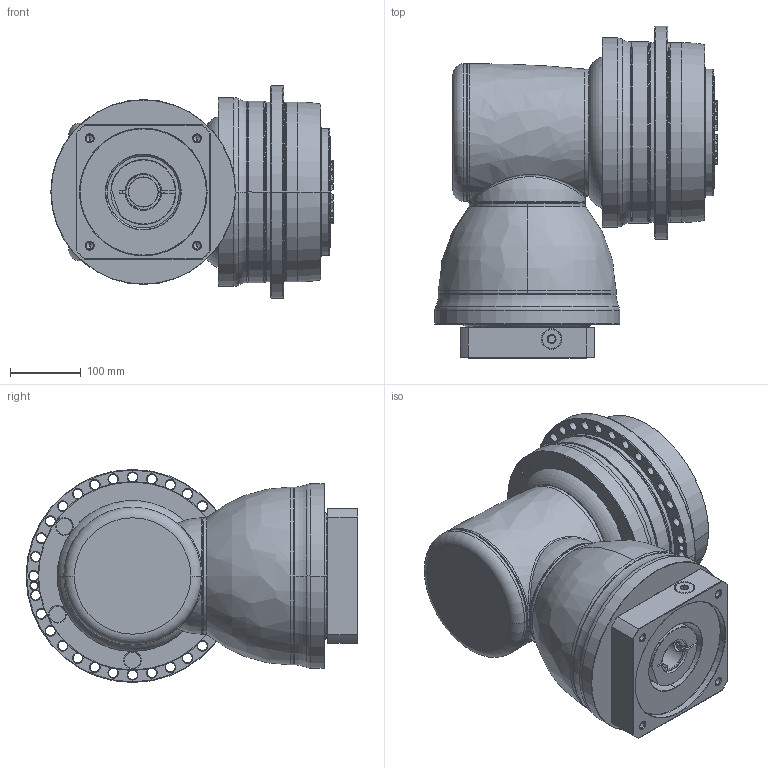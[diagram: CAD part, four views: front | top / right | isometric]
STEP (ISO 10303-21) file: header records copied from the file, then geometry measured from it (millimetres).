
FILE_DESCRIPTION((''),'2;1');
FILE_NAME('APCK255_2ST_SBG_42-P0409A00201_ASM','2018-05-21T',('d01226'),(''),'PRO/ENGINEER BY PARAMETRIC TECHNOLOGY CORPORATION, 2008410','PRO/ENGINEER BY PARAMETRIC TECHNOLOGY CORPORATION, 2008410','');
FILE_SCHEMA(('CONFIG_CONTROL_DESIGN'));
Length unit declared in the file: millimetre
Products named in the file (13): P0278701003; P0359770103; P1211700001; P1802710001; P1018700002; P1365700001; P1007701001; P1318701201; P0409A00201; P0503A00012; P0912702001; 21711422019; APCK255_2ST_SBG_42-P0409A00201_ASM
Assembly tree (12 placements, depth 2):
  APCK255_2ST_SBG_42-P0409A00201_ASM
    P0278701003
    P0359770103
    P1211700001
    P1802710001
    P1018700002
    P1365700001
    P1007701001
    P1318701201
    P0409A00201
    P0503A00012
    P0912702001
    21711422019
Bounding box: 400.1 x 470.5 x 302 mm (x, y, z)
Volume: 23584317.3 mm3; surface area: 1441802.4 mm2
Topology: 13 solids, 25 shells, 857 faces, 2063 edges, 1264 vertices
Faces by surface type: cone 281, cylinder 269, plane 154, torus 121, bspline 31, sphere 1
Entity records: 31896 total; most frequent: CARTESIAN_POINT 11306, DIRECTION 4621, ORIENTED_EDGE 4048, EDGE_CURVE 2049, AXIS2_PLACEMENT_3D 2022, VERTEX_POINT 1264, CIRCLE 1159, EDGE_LOOP 987
